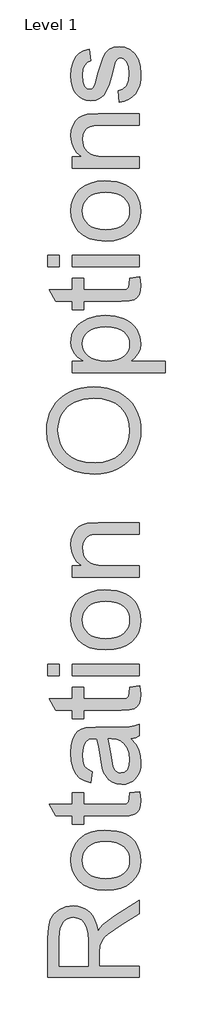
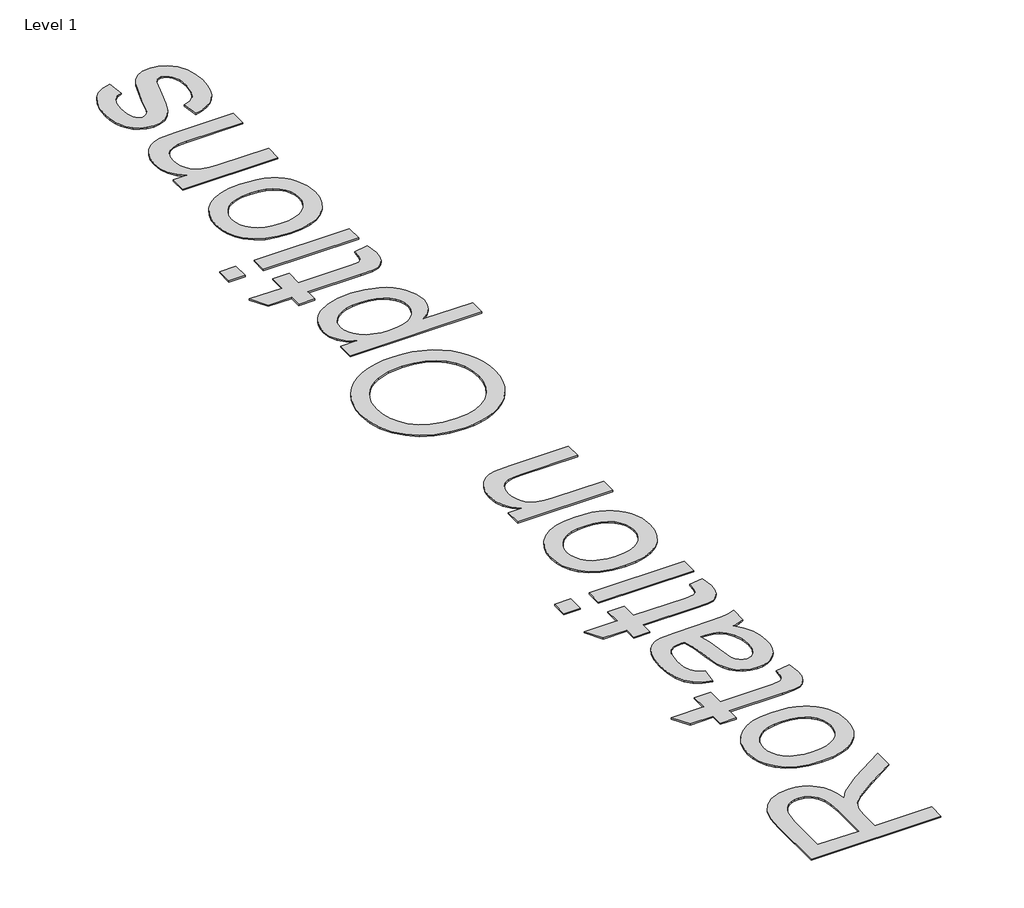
# One storey, part 24 of 47: 1 proxy.
"""IFC4 building model written with IfcOpenShell, lengths in millimetres."""

from ifc_helpers import new_model, si_unit, origin, origin_with_axes, place, context, project, spatial, polyline, outline, extrude, element, save

model = new_model("IFC4")

# Units and contexts
model_context = context("Model", 3, world=origin())
ifc_project = project(units=[si_unit("LENGTHUNIT", "METRE", prefix="MILLI")], contexts=[model_context])

# Site, building, storey
site = spatial("IfcSite", under=ifc_project)
building = spatial("IfcBuilding", under=site)
storey = spatial("IfcBuildingStorey", under=building, Name="Level 1", Elevation=0.0)

# Proxy
placement = place(None, origin())
element("IfcBuildingElementProxy", 1, Name="500mm Arial", ObjectType="500mm Arial", at=placement, inside=storey, context=model_context, shape_type="SweptSolid", body=[
    extrude(outline(polyline([(-15987.0073412, 66366.2932218), (-16489.2888919, 66366.2932218), (-16489.2888919, 66582.7304623), (-16485.9013119, 66640.9018028), (-16475.7385718, 66683.2235606), (-16456.97659, 66714.156305), (-16427.7912851, 66738.1606052), (-16391.6008938, 66753.5656638), (-16351.823653, 66758.7006833), (-16326.0259281, 66756.5738655), (-16302.3435247, 66750.1934122), (-16280.7764427, 66739.5593232), (-16261.3246822, 66724.6715987), (-16244.6090441, 66705.3386335), (-16231.2503291, 66681.3688222), (-16221.2485374, 66652.762165), (-16214.6036688, 66619.5186618), (-16201.0840055, 66640.212024), (-16187.7482832, 66655.2032153), (-16123.1236794, 66706.093558), (-15987.0073412, 66789.8480256), (-15987.0073412, 66716.8847632), (-16091.1179458, 66651.5243954), (-16160.0345062, 66604.3128727), (-16180.1300602, 66586.7618358), (-16192.5920628, 66571.1421794), (-16204.5482276, 66541.2824241), (-16206.7555196, 66504.8621066), (-16206.7555196, 66429.0784156), (-15987.0073412, 66429.0784156), (-15987.0073412, 66366.2932218)]), holes=[polyline([(-16269.5407135, 66429.0784156), (-16269.5407135, 66569.6093378), (-16271.7633338, 66609.9690583), (-16278.431195, 66641.2850132), (-16289.988821, 66664.8601177), (-16306.880736, 66681.9972873), (-16327.3135151, 66692.4359389), (-16349.4937337, 66695.9154895), (-16365.55025, 66694.2561884), (-16380.1199098, 66689.2782851), (-16393.2027133, 66680.9817797), (-16404.7986604, 66669.3666721), (-16414.2946144, 66654.1647151), (-16421.0774386, 66635.1076613), (-16426.5036981, 66585.4282636), (-16426.5036981, 66429.0784156), (-16269.5407135, 66429.0784156)])]), origin_with_axes(), (0.0, 0.0, 1.0), 5.0),
    extrude(outline(polyline([(-16171.4388481, 66845.0303248), (-16219.209858, 66848.4255691), (-16260.3743204, 66858.6113018), (-16294.9322353, 66875.5875231), (-16322.8836028, 66899.3542328), (-16340.7488722, 66923.2818909), (-16353.5097789, 66949.6927525), (-16361.1663229, 66978.5868175), (-16363.7185042, 67009.964086), (-16360.6106678, 67044.6024751), (-16351.2871585, 67075.9222621), (-16335.7479763, 67103.9234468), (-16313.9931212, 67128.6060294), (-16286.7583573, 67148.7514008), (-16254.7794484, 67163.1409517), (-16218.0563947, 67171.7746823), (-16176.589196, 67174.6525925), (-16113.1602087, 67169.5635582), (-16087.1248933, 67163.2022654), (-16064.8756968, 67154.2964554), (-16045.6576947, 67142.9572594), (-16028.7159624, 67129.2958082), (-16014.0504999, 67113.3121019), (-16001.6613073, 67095.0061406), (-15984.7847208, 67054.278538), (-15979.1591919, 67009.964086), (-15982.2555321, 66974.8198591), (-15991.5445524, 66943.2088323), (-16007.0262531, 66915.1310054), (-16028.700634, 66890.5863786), (-16056.1998131, 66870.6556051), (-16089.1559085, 66856.4193383), (-16127.5689202, 66847.8775782), (-16171.4388481, 66845.0303248)]), holes=[polyline([(-16171.5614754, 66907.8155187), (-16141.107744, 66909.631936), (-16114.7390356, 66915.0811881), (-16092.4553501, 66924.1632748), (-16074.2566877, 66936.8781963), (-16060.1200556, 66952.3445685), (-16050.0224613, 66969.6810075), (-16043.9639046, 66988.8875134), (-16041.9443858, 67009.964086), (-16043.975401, 67030.9333597), (-16050.0684465, 67050.0632235), (-16060.2235224, 67067.3536772), (-16074.4406287, 67082.804721), (-16092.8194, 67095.5196425), (-16115.4594711, 67104.6017293), (-16142.360842, 67110.0509813), (-16173.5235127, 67111.8673987), (-16203.0115539, 67110.039485), (-16228.6904836, 67104.555744), (-16250.5603018, 67095.4161757), (-16268.6210085, 67082.62078), (-16282.7576406, 67067.1122547), (-16292.8552349, 67049.8332972), (-16298.9137915, 67030.7839077), (-16300.9333104, 67009.964086), (-16298.9214557, 66988.8875134), (-16292.8858917, 66969.6810075), (-16282.8266184, 66952.3445685), (-16268.7436358, 66936.8781963), (-16250.5986228, 66924.1632748), (-16228.3532584, 66915.0811881), (-16202.0075426, 66909.631936), (-16171.5614754, 66907.8155187)])]), origin_with_axes(), (0.0, 0.0, 1.0), 5.0),
    extrude(outline(polyline([(-16039.3692118, 67378.7044725), (-15985.1679312, 67386.5526217), (-15979.1591919, 67339.5863537), (-15981.7650227, 67309.4506869), (-15989.5825151, 67286.9792284), (-16001.6306505, 67271.0989889), (-16016.9284101, 67260.7369794), (-16043.2013159, 67255.0348085), (-16088.1748898, 67253.1340848), (-16293.0851612, 67253.1340848), (-16293.0851612, 67206.0451894), (-16355.870355, 67206.0451894), (-16355.870355, 67253.1340848), (-16445.5109345, 67253.1340848), (-16482.4217613, 67315.9192787), (-16355.870355, 67315.9192787), (-16355.870355, 67378.7044725), (-16293.0851612, 67378.7044725), (-16293.0851612, 67315.9192787), (-16090.0142998, 67315.9192787), (-16057.6406842, 67319.2302166), (-16046.1750287, 67329.9601081), (-16041.9443858, 67351.3585775), (-16039.3692118, 67378.7044725)])), origin_with_axes(), (0.0, 0.0, 1.0), 5.0),
    extrude(outline(polyline([(-16034.0962365, 67676.9341433), (-16008.3751537, 67646.9364322), (-15991.5445524, 67616.0496731), (-15982.2555321, 67583.5687586), (-15979.1591919, 67548.7885816), (-15981.0215945, 67520.8333821), (-15986.6088023, 67496.319412), (-15995.9208153, 67475.2466715), (-16008.9576335, 67457.6151605), (-16024.8915225, 67443.6931262), (-16042.8947476, 67433.748816), (-16062.967309, 67427.7822299), (-16085.1092065, 67425.7933679), (-16111.1368577, 67428.7977375), (-16134.7732759, 67437.8108464), (-16155.0067856, 67451.7137201), (-16170.8257114, 67469.3873843), (-16182.7818763, 67490.1573886), (-16191.4271032, 67513.3492827), (-16200.8694077, 67567.6731907), (-16210.8022216, 67631.8685988), (-16222.4518181, 67676.5662613), (-16236.4313339, 67676.9341433), (-16264.4516792, 67672.6115298), (-16282.7844653, 67659.6436895), (-16290.724585, 67646.5685502), (-16296.3960991, 67630.6423255), (-16300.9333104, 67590.2366197), (-16297.9136123, 67552.8352836), (-16288.8545182, 67526.7156619), (-16272.100559, 67508.904042), (-16245.9962658, 67496.426711), (-16253.844415, 67433.6415171), (-16288.1800679, 67444.5400212), (-16315.1580809, 67460.8034711), (-16335.7901294, 67483.94938), (-16351.0878891, 67515.495261), (-16360.5608504, 67554.0768853), (-16363.7185042, 67598.3300236), (-16360.9287324, 67640.7744088), (-16352.559417, 67674.420283), (-16339.9747871, 67699.7888122), (-16324.5390717, 67717.4011627), (-16305.4551932, 67729.0814161), (-16281.926074, 67736.6536538), (-16226.9890294, 67739.7193371), (-16148.875419, 67739.7193371), (-16039.7984075, 67742.9076477), (-16012.8357229, 67747.6288), (-15987.0073412, 67755.4156356), (-15987.0073412, 67692.6304417), (-16008.8350062, 67682.5750005), (-16034.0962365, 67676.9341433)]), holes=[polyline([(-16159.6666242, 67676.9341433), (-16149.2126442, 67634.7503411), (-16140.4141332, 67575.6439673), (-16130.2360646, 67521.6266276), (-16123.2769635, 67507.5704697), (-16113.6813748, 67497.1624749), (-16102.1850625, 67490.72454), (-16089.5237905, 67488.5785617), (-16070.8537792, 67493.2537287), (-16055.5560196, 67507.2792298), (-16045.3472942, 67530.3484966), (-16041.9443858, 67562.1549608), (-16045.6998478, 67595.877477), (-16056.9662339, 67625.6759186), (-16073.5669089, 67649.8335029), (-16093.3252378, 67666.6334474), (-16113.6813748, 67674.0830578), (-16141.8856611, 67676.5662613), (-16159.6666242, 67676.9341433)])]), origin_with_axes(), (0.0, 0.0, 1.0), 5.0),
    extrude(outline(polyline([(-16039.3692118, 67959.4675156), (-15985.1679312, 67967.3156648), (-15979.1591919, 67920.3493967), (-15981.7650227, 67890.21373), (-15989.5825151, 67867.7422714), (-16001.6306505, 67851.862032), (-16016.9284101, 67841.5000224), (-16043.2013159, 67835.7978515), (-16088.1748898, 67833.8971279), (-16293.0851612, 67833.8971279), (-16293.0851612, 67786.8082325), (-16355.870355, 67786.8082325), (-16355.870355, 67833.8971279), (-16445.5109345, 67833.8971279), (-16482.4217613, 67896.6823217), (-16355.870355, 67896.6823217), (-16355.870355, 67959.4675156), (-16293.0851612, 67959.4675156), (-16293.0851612, 67896.6823217), (-16090.0142998, 67896.6823217), (-16057.6406842, 67899.9932597), (-16046.1750287, 67910.7231512), (-16041.9443858, 67932.1216206), (-16039.3692118, 67959.4675156)])), origin_with_axes(), (0.0, 0.0, 1.0), 5.0),
    extrude(outline(polyline([(-16426.5036981, 68022.2527094), (-16489.2888919, 68022.2527094), (-16489.2888919, 68085.0379032), (-16426.5036981, 68085.0379032), (-16426.5036981, 68022.2527094)])), origin_with_axes(), (0.0, 0.0, 1.0), 5.0),
    extrude(outline(polyline([(-15987.0073412, 68022.2527094), (-16355.870355, 68022.2527094), (-16355.870355, 68085.0379032), (-15987.0073412, 68085.0379032), (-15987.0073412, 68022.2527094)])), origin_with_axes(), (0.0, 0.0, 1.0), 5.0),
    extrude(outline(polyline([(-16171.4388481, 68163.5193955), (-16219.209858, 68166.9146398), (-16260.3743204, 68177.1003725), (-16294.9322353, 68194.0765938), (-16322.8836028, 68217.8433035), (-16340.7488722, 68241.7709616), (-16353.5097789, 68268.1818232), (-16361.1663229, 68297.0758882), (-16363.7185042, 68328.4531567), (-16360.6106678, 68363.0915458), (-16351.2871585, 68394.4113328), (-16335.7479763, 68422.4125175), (-16313.9931212, 68447.0951002), (-16286.7583573, 68467.2404715), (-16254.7794484, 68481.6300225), (-16218.0563947, 68490.263753), (-16176.589196, 68493.1416632), (-16113.1602087, 68488.052629), (-16087.1248933, 68481.6913361), (-16064.8756968, 68472.7855262), (-16045.6576947, 68461.4463301), (-16028.7159624, 68447.7848789), (-16014.0504999, 68431.8011726), (-16001.6613073, 68413.4952113), (-15984.7847208, 68372.7676087), (-15979.1591919, 68328.4531567), (-15982.2555321, 68293.3089299), (-15991.5445524, 68261.697903), (-16007.0262531, 68233.6200761), (-16028.700634, 68209.0754493), (-16056.1998131, 68189.1446758), (-16089.1559085, 68174.908409), (-16127.5689202, 68166.3666489), (-16171.4388481, 68163.5193955)]), holes=[polyline([(-16171.5614754, 68226.3045894), (-16141.107744, 68228.1210067), (-16114.7390356, 68233.5702588), (-16092.4553501, 68242.6523455), (-16074.2566877, 68255.367267), (-16060.1200556, 68270.8336392), (-16050.0224613, 68288.1700782), (-16043.9639046, 68307.3765841), (-16041.9443858, 68328.4531567), (-16043.975401, 68349.4224304), (-16050.0684465, 68368.5522942), (-16060.2235224, 68385.842748), (-16074.4406287, 68401.2937918), (-16092.8194, 68414.0087132), (-16115.4594711, 68423.0908), (-16142.360842, 68428.540052), (-16173.5235127, 68430.3564694), (-16203.0115539, 68428.5285557), (-16228.6904836, 68423.0448147), (-16250.5603018, 68413.9052464), (-16268.6210085, 68401.1098508), (-16282.7576406, 68385.6013254), (-16292.8552349, 68368.3223679), (-16298.9137915, 68349.2729784), (-16300.9333104, 68328.4531567), (-16298.9214557, 68307.3765841), (-16292.8858917, 68288.1700782), (-16282.8266184, 68270.8336392), (-16268.7436358, 68255.367267), (-16250.5986228, 68242.6523455), (-16228.3532584, 68233.5702588), (-16202.0075426, 68228.1210067), (-16171.5614754, 68226.3045894)])]), origin_with_axes(), (0.0, 0.0, 1.0), 5.0),
    extrude(outline(polyline([(-15987.0073412, 68563.7750063), (-16355.870355, 68563.7750063), (-16355.870355, 68626.5602001), (-16304.3668757, 68626.5602001), (-16330.3332132, 68648.3725368), (-16348.8805971, 68674.5688005), (-16360.0090274, 68705.1489914), (-16363.7185042, 68740.1131093), (-16360.729463, 68771.0611822), (-16351.7623394, 68799.4034242), (-16337.9361077, 68823.0398424), (-16320.3697425, 68839.8704437), (-16299.1092288, 68851.2901139), (-16274.2005521, 68858.6937391), (-16213.5000229, 68862.0046771), (-15987.0073412, 68862.0046771), (-15987.0073412, 68799.2194832), (-16205.038737, 68799.2194832), (-16237.504323, 68797.4107301), (-16260.5889182, 68791.9844706), (-16277.1282796, 68781.9750147), (-16289.9581642, 68766.416672), (-16298.1895238, 68746.4744022), (-16300.9333104, 68723.3131649), (-16299.3928045, 68704.2484469), (-16294.771287, 68686.5402938), (-16287.0687577, 68670.1887055), (-16276.2852167, 68655.1936821), (-16261.1943907, 68642.6665337), (-16240.5700063, 68633.7185706), (-16214.4120636, 68628.3497928), (-16182.7205626, 68626.5602001), (-15987.0073412, 68626.5602001), (-15987.0073412, 68563.7750063)])), origin_with_axes(), (0.0, 0.0, 1.0), 5.0),
    extrude(outline(polyline([(-16231.5262406, 69128.8417509), (-16290.4410093, 69133.0264086), (-16342.5959463, 69145.5803817), (-16387.9910517, 69166.5036701), (-16426.6263254, 69195.796274), (-16457.4747635, 69231.7030896), (-16479.5093622, 69272.4690132), (-16492.7301214, 69318.0940448), (-16497.1370411, 69368.5781844), (-16495.0677049, 69402.3696785), (-16488.8596963, 69434.4597184), (-16478.5130151, 69464.848304), (-16464.0276616, 69493.5354354), (-16445.8404954, 69519.7163708), (-16424.3883766, 69542.5863681), (-16399.671305, 69562.1454275), (-16371.6892808, 69578.393549), (-16341.0784331, 69591.1621199), (-16308.4748913, 69600.2825277), (-16273.8786553, 69605.7547724), (-16237.2897252, 69607.5788539), (-16200.21795, 69605.6589698), (-16165.1541973, 69599.8993173), (-16132.0984672, 69590.2998965), (-16101.0507597, 69576.8607073), (-16072.831145, 69559.8998145), (-16048.2596934, 69539.7352827), (-16027.3364049, 69516.3671118), (-16010.0612795, 69489.7953018), (-15996.5416162, 69461.0660173), (-15986.8847138, 69431.2254225), (-15981.0905724, 69400.2735176), (-15979.1591919, 69368.2103024), (-15981.2936739, 69333.8286643), (-15987.6971199, 69301.317093), (-15998.3695299, 69270.6755884), (-16013.3109038, 69241.9041507), (-16031.942594, 69215.7538722), (-16053.6859528, 69192.9758454), (-16078.5409801, 69173.5700701), (-16106.5076759, 69157.5365465), (-16136.4632338, 69144.9825734), (-16167.2848472, 69136.0154498), (-16198.9725162, 69130.6351756), (-16231.5262406, 69128.8417509)]), holes=[polyline([(-16230.913104, 69191.6269447), (-16189.2887891, 69194.765438), (-16152.3396412, 69204.1809178), (-16120.0656603, 69219.8733842), (-16092.4668464, 69241.8428371), (-16070.3632699, 69268.5487707), (-16054.5750009, 69298.4506791), (-16045.1020396, 69331.5485623), (-16041.9443858, 69367.8424204), (-16045.1326964, 69404.7570794), (-16054.6976283, 69438.2458372), (-16070.6391814, 69468.308694), (-16092.9573558, 69494.9456498), (-16121.1386494, 69516.7541543), (-16154.6695605, 69532.3316575), (-16193.5500888, 69541.6781595), (-16237.7802345, 69544.7936601), (-16293.3610726, 69539.4593712), (-16341.4003299, 69523.4565044), (-16362.2891294, 69511.5578211), (-16380.6870613, 69497.198927), (-16396.5941254, 69480.379822), (-16410.010322, 69461.1005062), (-16420.6597393, 69439.9587878), (-16428.266466, 69417.552475), (-16432.830502, 69393.8815679), (-16434.3518473, 69368.9460664), (-16431.4202877, 69333.9129706), (-16422.6256087, 69301.4090635), (-16407.9678105, 69271.4343451), (-16387.4468929, 69243.9888154), (-16360.0741732, 69221.080497), (-16324.8609685, 69204.7174124), (-16281.8072787, 69194.8995616), (-16230.913104, 69191.6269447)])]), origin_with_axes(), (0.0, 0.0, 1.0), 5.0),
    extrude(outline(polyline([(-15845.740655, 69686.0603462), (-16355.870355, 69686.0603462), (-16355.870355, 69748.8455401), (-16294.3114345, 69748.8455401), (-16324.6770275, 69769.3243045), (-16346.3667368, 69792.2556155), (-16359.3805624, 69818.9883738), (-16363.7185042, 69850.8714801), (-16362.200991, 69872.768123), (-16357.6484513, 69893.3311937), (-16350.0608852, 69912.5606922), (-16339.4382925, 69930.4566184), (-16326.056585, 69946.6280977), (-16310.1916739, 69960.6842556), (-16271.0122414, 69982.450607), (-16224.7510805, 69995.6023884), (-16174.2592767, 69999.9863155), (-16120.5638338, 69995.0352369), (-16072.539905, 69980.1820014), (-16051.264063, 69969.16087), (-16032.6247086, 69955.9017897), (-16016.6218418, 69940.4047607), (-16003.2554626, 69922.6697828), (-15985.1832596, 69883.9655312), (-15979.1591919, 69843.2685855), (-15983.1905655, 69814.4051773), (-15995.2846861, 69788.6381092), (-16013.5408301, 69766.5805179), (-16036.0582739, 69748.8455401), (-15845.740655, 69748.8455401), (-15845.740655, 69686.0603462)]), holes=[polyline([(-16168.4957921, 69748.8455401), (-16138.237498, 69750.5431622), (-16112.2098469, 69755.6360286), (-16090.4128386, 69764.1241392), (-16072.8464734, 69776.0074941), (-16059.3268101, 69790.3127387), (-16049.6699077, 69806.0665188), (-16043.8757663, 69823.2688341), (-16041.9443858, 69841.9196849), (-16043.9447441, 69860.8387829), (-16049.9458192, 69878.3553308), (-16059.9476109, 69894.4693286), (-16073.9501194, 69909.1807763), (-16092.1526139, 69921.4396774), (-16114.754364, 69930.1960353), (-16141.7553696, 69935.44985), (-16173.1556307, 69937.2011216), (-16203.1533417, 69935.4920032), (-16229.1350077, 69930.3646479), (-16251.1006285, 69921.8190557), (-16269.0502041, 69909.8552266), (-16282.9990631, 69895.515493), (-16292.9625338, 69879.8421872), (-16298.9406162, 69862.8353091), (-16300.9333104, 69844.4948588), (-16298.8141568, 69826.2118901), (-16292.4566961, 69809.0095747), (-16281.8609282, 69792.8879127), (-16267.0268532, 69777.846904), (-16248.1537404, 69765.1588073), (-16225.4408593, 69756.0958811), (-16198.8882099, 69750.6581253), (-16168.4957921, 69748.8455401)])]), origin_with_axes(), (0.0, 0.0, 1.0), 5.0),
    extrude(outline(polyline([(-16039.3692118, 70204.0381955), (-15985.1679312, 70211.8863447), (-15979.1591919, 70164.9200766), (-15981.7650227, 70134.7844099), (-15989.5825151, 70112.3129513), (-16001.6306505, 70096.4327119), (-16016.9284101, 70086.0707023), (-16043.2013159, 70080.3685314), (-16088.1748898, 70078.4678078), (-16293.0851612, 70078.4678078), (-16293.0851612, 70031.3789124), (-16355.870355, 70031.3789124), (-16355.870355, 70078.4678078), (-16445.5109345, 70078.4678078), (-16482.4217613, 70141.2530016), (-16355.870355, 70141.2530016), (-16355.870355, 70204.0381955), (-16293.0851612, 70204.0381955), (-16293.0851612, 70141.2530016), (-16090.0142998, 70141.2530016), (-16057.6406842, 70144.5639396), (-16046.1750287, 70155.2938311), (-16041.9443858, 70176.6923005), (-16039.3692118, 70204.0381955)])), origin_with_axes(), (0.0, 0.0, 1.0), 5.0),
    extrude(outline(polyline([(-15987.0073412, 70266.8233893), (-16355.870355, 70266.8233893), (-16355.870355, 70329.6085831), (-15987.0073412, 70329.6085831), (-15987.0073412, 70266.8233893)])), origin_with_axes(), (0.0, 0.0, 1.0), 5.0),
    extrude(outline(polyline([(-16426.5036981, 70266.8233893), (-16489.2888919, 70266.8233893), (-16489.2888919, 70329.6085831), (-16426.5036981, 70329.6085831), (-16426.5036981, 70266.8233893)])), origin_with_axes(), (0.0, 0.0, 1.0), 5.0),
    extrude(outline(polyline([(-16171.4388481, 70408.0900754), (-16219.209858, 70411.4853197), (-16260.3743204, 70421.6710524), (-16294.9322353, 70438.6472737), (-16322.8836028, 70462.4139834), (-16340.7488722, 70486.3416415), (-16353.5097789, 70512.7525031), (-16361.1663229, 70541.6465681), (-16363.7185042, 70573.0238366), (-16360.6106678, 70607.6622257), (-16351.2871585, 70638.9820127), (-16335.7479763, 70666.9831975), (-16313.9931212, 70691.6657801), (-16286.7583573, 70711.8111514), (-16254.7794484, 70726.2007024), (-16218.0563947, 70734.8344329), (-16176.589196, 70737.7123431), (-16113.1602087, 70732.6233089), (-16087.1248933, 70726.262016), (-16064.8756968, 70717.3562061), (-16045.6576947, 70706.01701), (-16028.7159624, 70692.3555588), (-16014.0504999, 70676.3718525), (-16001.6613073, 70658.0658912), (-15984.7847208, 70617.3382886), (-15979.1591919, 70573.0238366), (-15982.2555321, 70537.8796098), (-15991.5445524, 70506.2685829), (-16007.0262531, 70478.1907561), (-16028.700634, 70453.6461292), (-16056.1998131, 70433.7153557), (-16089.1559085, 70419.4790889), (-16127.5689202, 70410.9373288), (-16171.4388481, 70408.0900754)]), holes=[polyline([(-16171.5614754, 70470.8752693), (-16141.107744, 70472.6916866), (-16114.7390356, 70478.1409387), (-16092.4553501, 70487.2230255), (-16074.2566877, 70499.9379469), (-16060.1200556, 70515.4043191), (-16050.0224613, 70532.7407581), (-16043.9639046, 70551.947264), (-16041.9443858, 70573.0238366), (-16043.975401, 70593.9931103), (-16050.0684465, 70613.1229741), (-16060.2235224, 70630.4134279), (-16074.4406287, 70645.8644717), (-16092.8194, 70658.5793931), (-16115.4594711, 70667.6614799), (-16142.360842, 70673.1107319), (-16173.5235127, 70674.9271493), (-16203.0115539, 70673.0992356), (-16228.6904836, 70667.6154946), (-16250.5603018, 70658.4759263), (-16268.6210085, 70645.6805307), (-16282.7576406, 70630.1720053), (-16292.8552349, 70612.8930478), (-16298.9137915, 70593.8436583), (-16300.9333104, 70573.0238366), (-16298.9214557, 70551.947264), (-16292.8858917, 70532.7407581), (-16282.8266184, 70515.4043191), (-16268.7436358, 70499.9379469), (-16250.5986228, 70487.2230255), (-16228.3532584, 70478.1409387), (-16202.0075426, 70472.6916866), (-16171.5614754, 70470.8752693)])]), origin_with_axes(), (0.0, 0.0, 1.0), 5.0),
    extrude(outline(polyline([(-15987.0073412, 70808.3456862), (-16355.870355, 70808.3456862), (-16355.870355, 70871.13088), (-16304.3668757, 70871.13088), (-16330.3332132, 70892.9432167), (-16348.8805971, 70919.1394804), (-16360.0090274, 70949.7196713), (-16363.7185042, 70984.6837892), (-16360.729463, 71015.6318621), (-16351.7623394, 71043.9741041), (-16337.9361077, 71067.6105223), (-16320.3697425, 71084.4411236), (-16299.1092288, 71095.8607938), (-16274.2005521, 71103.264419), (-16213.5000229, 71106.575357), (-15987.0073412, 71106.575357), (-15987.0073412, 71043.7901631), (-16205.038737, 71043.7901631), (-16237.504323, 71041.98141), (-16260.5889182, 71036.5551505), (-16277.1282796, 71026.5456946), (-16289.9581642, 71010.9873519), (-16298.1895238, 70991.0450821), (-16300.9333104, 70967.8838448), (-16299.3928045, 70948.8191268), (-16294.771287, 70931.1109737), (-16287.0687577, 70914.7593854), (-16276.2852167, 70899.764362), (-16261.1943907, 70887.2372136), (-16240.5700063, 70878.2892505), (-16214.4120636, 70872.9204727), (-16182.7205626, 70871.13088), (-15987.0073412, 70871.13088), (-15987.0073412, 70808.3456862)])), origin_with_axes(), (0.0, 0.0, 1.0), 5.0),
    extrude(outline(polyline([(-16096.8814304, 71169.3605508), (-16104.7295796, 71232.1457446), (-16077.874194, 71242.0479017), (-16058.1311936, 71261.2084223), (-16045.9910877, 71289.7499337), (-16041.9443858, 71327.7950634), (-16045.6538626, 71365.3803406), (-16056.7822929, 71391.8065306), (-16072.907787, 71407.4415153), (-16091.6084551, 71412.6531769), (-16107.6113219, 71407.4108585), (-16119.8127414, 71391.6839032), (-16137.7163319, 71327.0592994), (-16154.2863501, 71269.7616787), (-16168.4344785, 71232.5136266), (-16183.8701938, 71208.5859685), (-16204.302973, 71191.2495295), (-16228.4299005, 71180.7189074), (-16254.948061, 71177.2087), (-16279.2742579, 71180.0291287), (-16301.730388, 71188.4904146), (-16321.4274032, 71201.8261369), (-16337.4762552, 71219.2698748), (-16347.5776817, 71236.6063138), (-16356.054296, 71259.1850713), (-16361.8024522, 71285.2893645), (-16363.7185042, 71313.2024109), (-16360.6374925, 71354.0679692), (-16351.3944574, 71389.5992386), (-16336.8937754, 71418.1714069), (-16318.0398232, 71438.1596619), (-16293.4377147, 71451.4034138), (-16261.6925642, 71459.7420723), (-16253.844415, 71396.9568785), (-16273.6027438, 71389.0320872), (-16288.4866362, 71373.3511171), (-16297.8216418, 71349.7606842), (-16300.9333104, 71318.1075042), (-16297.9595976, 71282.0550687), (-16289.0384592, 71258.0201116), (-16276.1625894, 71244.5004483), (-16261.3246822, 71239.9938939), (-16251.6677799, 71241.8639607), (-16243.0532098, 71247.4741611), (-16235.3583447, 71257.0697498), (-16229.1963213, 71270.8959815), (-16215.8299422, 71324.9746348), (-16186.2767552, 71417.1290746), (-16172.1439552, 71441.4705999), (-16152.7994937, 71459.9260133), (-16128.1820568, 71471.5602814), (-16098.230331, 71475.4383708), (-16067.2669298, 71470.8858311), (-16038.1429385, 71457.228212), (-16013.1422912, 71434.9866797), (-15994.5489221, 71404.6824004), (-15983.0066245, 71368.0781419), (-15979.1591919, 71326.9366721), (-15981.0139303, 71293.145178), (-15986.5781455, 71263.6303121), (-15995.8518375, 71238.3920744), (-16008.8350062, 71217.4304648), (-16025.4663381, 71200.3086236), (-16045.6845194, 71186.5896909), (-16069.4895502, 71176.2736666), (-16096.8814304, 71169.3605508)])), origin_with_axes(), (0.0, 0.0, 1.0), 5.0),
])

save(model, "model.ifc")
